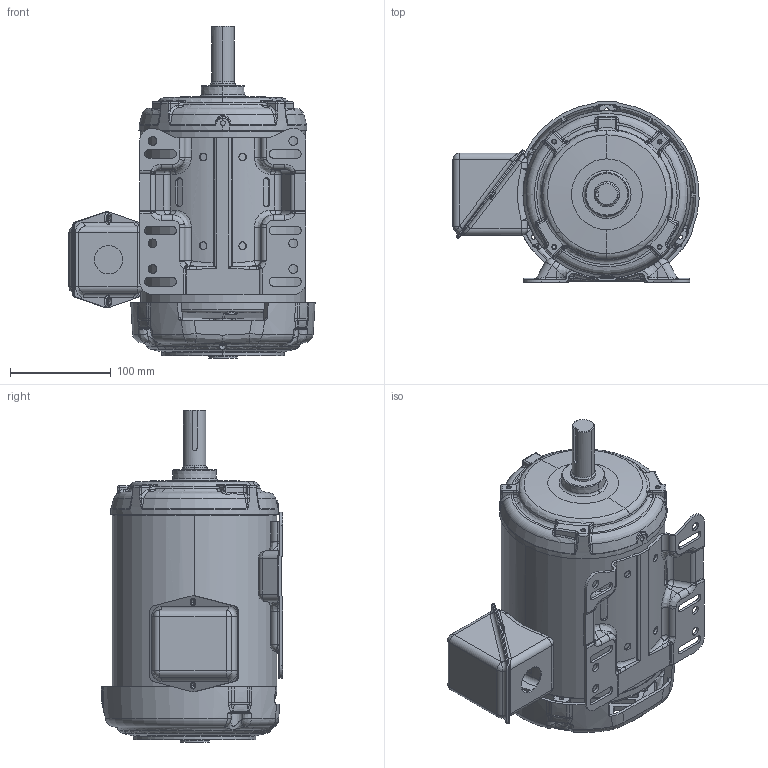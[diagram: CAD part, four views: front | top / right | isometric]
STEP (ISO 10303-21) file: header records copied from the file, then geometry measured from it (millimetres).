
FILE_DESCRIPTION((''),'2;1');
FILE_NAME('140_ASSY_ASM','2019-10-03T09:50:43',('EMD2341'),('Nidec Motor Corporation'),'CREO PARAMETRIC BY PTC INC, 2018300','CREO PARAMETRIC BY PTC INC, 2018300','');
FILE_SCHEMA(('CONFIG_CONTROL_DESIGN'));
Length unit declared in the file: inch
Products named in the file (12): 143UT_AF0; 0190767; 0774783; 0936254; 0387280-BKT_AF25; I20258935000_AF25; 0387281_ASM; 0343740; 0399601; 0912536; B35796439; 140_ASSY_ASM
Assembly tree (11 placements, depth 3):
  140_ASSY_ASM
    143UT_AF0
    0190767
    0774783
    0936254
    0387281_ASM
      0387280-BKT_AF25
      I20258935000_AF25
    0343740
    0399601
    0912536
    B35796439
Bounding box: 244.51 x 180.07 x 329.81 mm (x, y, z)
Volume: 908965.8 mm3; surface area: 577782.4 mm2
Topology: 12 solids, 16 shells, 2484 faces, 6132 edges, 3659 vertices
Faces by surface type: bspline 1022, cylinder 502, plane 430, torus 277, cone 179, sphere 74
Entity records: 117387 total; most frequent: CARTESIAN_POINT 65439, ORIENTED_EDGE 12224, DIRECTION 9070, EDGE_CURVE 6120, AXIS2_PLACEMENT_3D 3855, VERTEX_POINT 3659, EDGE_LOOP 2643, FACE_OUTER_BOUND 2484
